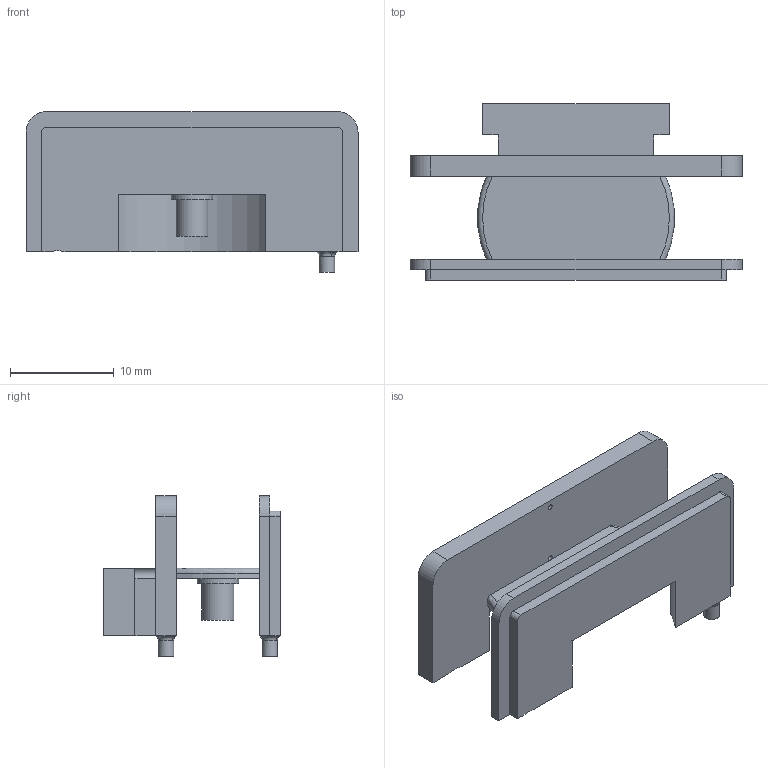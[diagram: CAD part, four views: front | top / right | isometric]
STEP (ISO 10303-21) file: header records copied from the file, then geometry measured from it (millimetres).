
FILE_DESCRIPTION (( 'STEP AP214' ), '1' );
FILE_NAME ('P001-B100_SquareDynamo_Rev2D-3.STEP', '2026-04-20T05:38:06', ( '' ), ( '' ), 'SwSTEP 2.0', 'SolidWorks 2024', '' );
FILE_SCHEMA (( 'AUTOMOTIVE_DESIGN' ));
Length unit declared in the file: millimetre
Products named in the file (1): P001-B100_SquareDynamo_Rev2D-3
Bounding box: 32 x 17 x 15.5 mm (x, y, z)
Volume: 1843.2 mm3; surface area: 2582.7 mm2
Topology: 1 solids, 1 shells, 70 faces, 193 edges, 125 vertices
Faces by surface type: plane 37, cylinder 21, torus 8, bspline 4
Full cylindrical faces by diameter (mm): 0.5 x2, 1.5 x2, 1.6 x2, 3.075 x1, 4 x1
Entity records: 2313 total; most frequent: CARTESIAN_POINT 569, DIRECTION 360, ORIENTED_EDGE 352, EDGE_CURVE 176, AXIS2_PLACEMENT_3D 129, VERTEX_POINT 118, VECTOR 102, LINE 102
